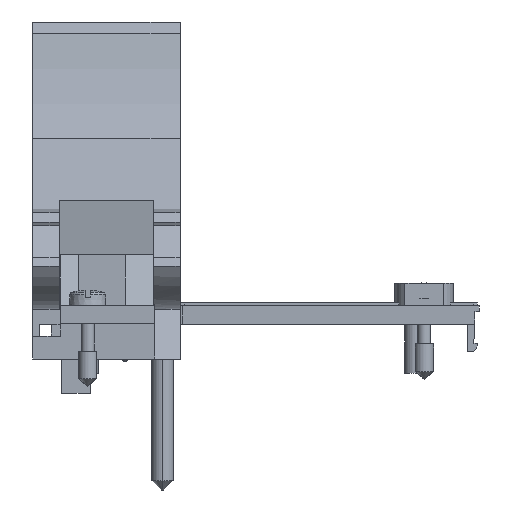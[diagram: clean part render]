
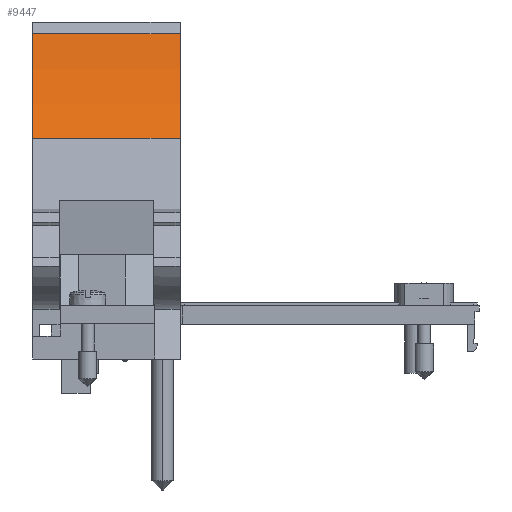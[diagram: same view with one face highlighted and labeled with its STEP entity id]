
A CAD part, front view. The second image highlights one B-rep face of the part: STEP entity #9447.
In plain terms, the highlighted cylindrical face has radius 51.46 mm (diameter 102.919 mm), a partial arc.
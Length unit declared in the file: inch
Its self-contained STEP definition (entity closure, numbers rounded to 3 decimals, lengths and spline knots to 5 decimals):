
#1900=CARTESIAN_POINT('',(-1.65948,-4.13201,
1.5524));
#1901=DIRECTION('',(1.,0.,0.));
#1902=DIRECTION('',(0.,0.9,-0.435));
#1903=AXIS2_PLACEMENT_3D('',#1900,#1901,#1902);
#2245=CARTESIAN_POINT('',(-2.44748,-4.13201,
1.5524));
#2246=DIRECTION('',(1.,0.,0.));
#2247=DIRECTION('',(0.,0.9,-0.435));
#2248=AXIS2_PLACEMENT_3D('',#2245,#2246,#2247);
#2463=DIRECTION('',(1.,0.,0.));
#2464=VECTOR('',#2463,0.788);
#2465=CARTESIAN_POINT('',(-2.44748,-2.13201,
1.22907));
#2466=LINE('',#2465,#2464);
#2471=DIRECTION('',(1.,0.,0.));
#2472=VECTOR('',#2471,0.788);
#2473=CARTESIAN_POINT('',(-2.44748,-2.30777,
0.67109));
#2474=LINE('',#2473,#2472);
#5542=CARTESIAN_POINT('',(-2.44748,-2.30777,
0.67109));
#5543=CARTESIAN_POINT('',(-2.44748,-2.13201,
1.22907));
#5544=VERTEX_POINT('',#5542);
#5545=VERTEX_POINT('',#5543);
#5546=CARTESIAN_POINT('',(-1.65948,-2.30777,
0.67109));
#5547=CARTESIAN_POINT('',(-1.65948,-2.13201,
1.22907));
#5548=VERTEX_POINT('',#5546);
#5549=VERTEX_POINT('',#5547);
#9435=CARTESIAN_POINT('',(-1.65948,-4.13201,
1.5524));
#9436=DIRECTION('',(1.,0.,0.));
#9437=DIRECTION('',(0.,1.,0.));
#9438=AXIS2_PLACEMENT_3D('',#9435,#9436,#9437);
#9439=CYLINDRICAL_SURFACE('',#9438,2.02597);
#9440=ORIENTED_EDGE('',*,*,#9153,.T.);
#9441=ORIENTED_EDGE('',*,*,#9427,.T.);
#9442=ORIENTED_EDGE('',*,*,#8702,.F.);
#9444=ORIENTED_EDGE('',*,*,#9443,.F.);
#9445=EDGE_LOOP('',(#9440,#9441,#9442,#9444));
#9446=FACE_OUTER_BOUND('',#9445,.F.);
#9447=ADVANCED_FACE('',(#9446),#9439,.F.);
#1904=CIRCLE('',#1903,2.02597);
#2249=CIRCLE('',#2248,2.02597);
#8702=EDGE_CURVE('',#5548,#5549,#1904,.T.);
#9153=EDGE_CURVE('',#5544,#5545,#2249,.T.);
#9427=EDGE_CURVE('',#5545,#5549,#2466,.T.);
#9443=EDGE_CURVE('',#5544,#5548,#2474,.T.);
